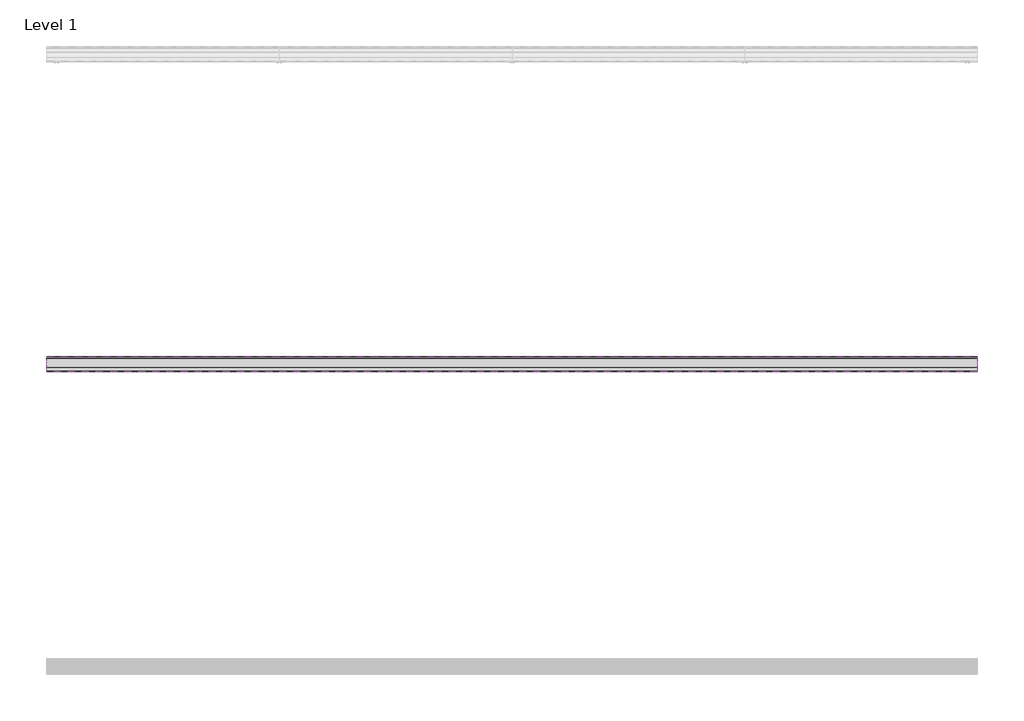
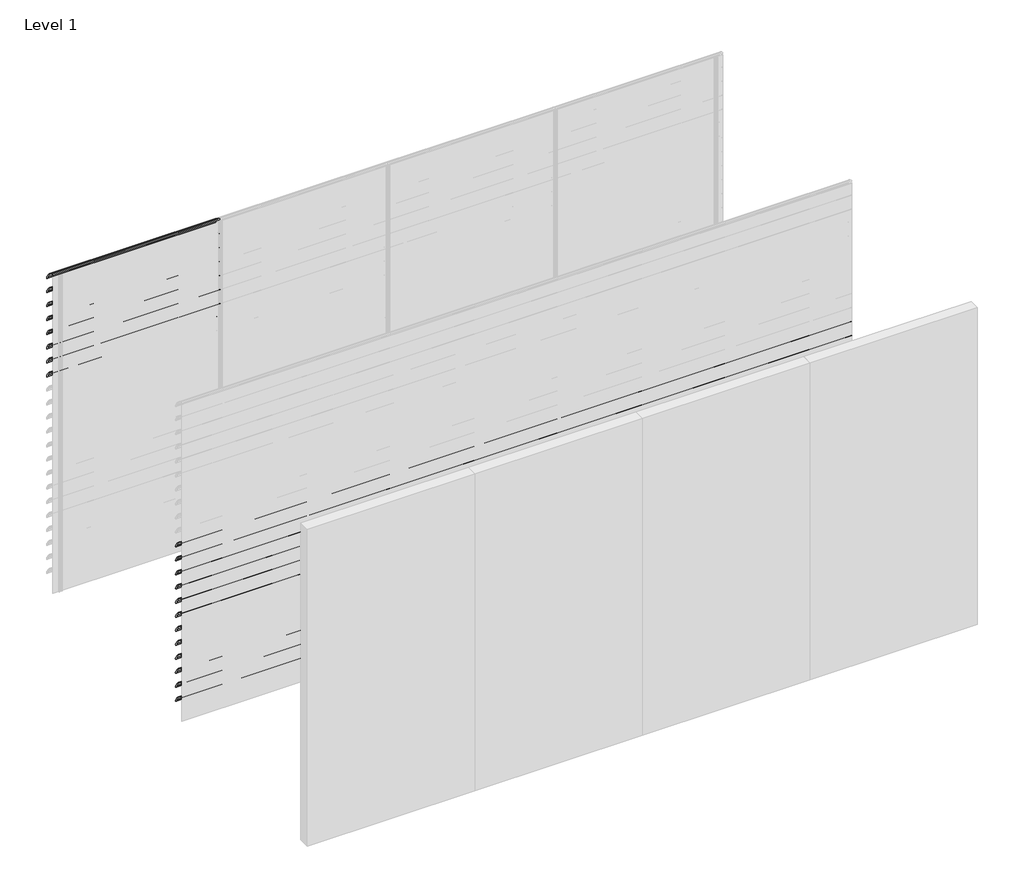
# One storey, part 53 of 57: 20 proxies.
"""IFC4 building model written with IfcOpenShell, lengths in millimetres."""

from ifc_helpers import new_model, si_unit, point, frame, frame_2d, origin, place, context, project, spatial, polyline, circle_curve, trimmed, segment, composite_curve, outline, extrude, element, save

model = new_model("IFC4")

# Units and contexts
model_context = context("Model", 3, world=origin())
ifc_project = project(units=[si_unit("LENGTHUNIT", "METRE", prefix="MILLI")], contexts=[model_context])

# Site, building, storey
site = spatial("IfcSite", under=ifc_project)
building = spatial("IfcBuilding", under=site)
storey = spatial("IfcBuildingStorey", under=building, Name="Level 1", Elevation=0.0)

# Proxies
placement = place(None, origin())
element("IfcBuildingElementProxy", 1, Name="Wall Sweeps", at=placement, inside=storey, context=model_context, shape_type="SweptSolid", body=[
    extrude(outline(composite_curve([segment(trimmed(circle_curve(frame_2d((6.2177474, 3016.4913792)), 4.2177474), [point((10.3014394, 3017.5462976))], [point((6.2177474, 3020.7091266))], False, "CARTESIAN"), True, "CONTINUOUS"), segment(trimmed(circle_curve(frame_2d((-18.7150834, 2918.2536312)), 105.4456002), [point((6.2177474, 3020.7091266))], [point((28.2085702, 3012.6832099))], False, "CARTESIAN"), True, "CONTINUOUS"), segment(trimmed(circle_curve(frame_2d((-61.7199745, 2864.0352476)), 173.7335887), [point((28.2085702, 3012.6832099))], [point((86.9279879, 2953.9637922))], False, "CARTESIAN"), True, "CONTINUOUS"), segment(trimmed(circle_curve(frame_2d((-4.9297178, 2902.1860314)), 105.4456002), [point((86.9279879, 2953.9637922))], [point((96.3750384, 2931.4455765))], False, "CARTESIAN"), True, "CONTINUOUS"), segment(trimmed(circle_curve(frame_2d((92.190263, 2930.3307305)), 4.3307305), [point((96.3750384, 2931.4455765))], [point((90.9230804, 2926.189538))], False, "CARTESIAN"), True, "CONTINUOUS"), segment(polyline([(90.9230804, 2926.189538), (65.2598016, 2950.9722783)]), True, "CONTINUOUS"), segment(trimmed(circle_curve(frame_2d((68.6120426, 2953.2977626)), 4.079877), [point((65.2598016, 2950.9722783))], [point((69.2689403, 2957.3244091))], False, "CARTESIAN"), True, "CONTINUOUS"), segment(trimmed(circle_curve(frame_2d((-14.6665585, 2935.2544323)), 86.7885467), [point((69.2689403, 2957.3244091))], [point((57.6971649, 2983.1683485))], True, "CARTESIAN"), True, "CONTINUOUS"), segment(polyline([(57.6971649, 2983.1683485), (59.2769901, 2985.9046861)]), True, "CONTINUOUS"), segment(trimmed(circle_curve(frame_2d((-61.7199745, 2864.0352476)), 171.7335887), [point((59.2769901, 2985.9046861))], [point((27.2444128, 3010.9289618))], True, "CARTESIAN"), True, "CONTINUOUS"), segment(trimmed(circle_curve(frame_2d((-18.7150834, 2918.2536312)), 103.4456002), [point((27.2444128, 3010.9289618))], [point((10.3014394, 3017.5462976))], True, "CARTESIAN"), True, "CONTINUOUS")], self_intersect=False)), frame((0.0, 0.0, 0.0), z_axis=(1.0, 0.0, 0.0), x_axis=(0.0, 1.0, 0.0)), (0.0, 0.0, 1.0), 1500.0),
])
element("IfcBuildingElementProxy", 2, Name="Wall Sweeps", at=placement, inside=storey, context=model_context, shape_type="SweptSolid", body=[
    extrude(outline(composite_curve([segment(trimmed(circle_curve(frame_2d((6.2177474, 2883.4913792)), 4.2177474), [point((10.3014394, 2884.5462976))], [point((6.2177474, 2887.7091266))], False, "CARTESIAN"), True, "CONTINUOUS"), segment(trimmed(circle_curve(frame_2d((-18.7150834, 2785.2536312)), 105.4456002), [point((6.2177474, 2887.7091266))], [point((28.2085702, 2879.6832099))], False, "CARTESIAN"), True, "CONTINUOUS"), segment(trimmed(circle_curve(frame_2d((-61.7199745, 2731.0352476)), 173.7335887), [point((28.2085702, 2879.6832099))], [point((86.9279879, 2820.9637922))], False, "CARTESIAN"), True, "CONTINUOUS"), segment(trimmed(circle_curve(frame_2d((-4.9297178, 2769.1860314)), 105.4456002), [point((86.9279879, 2820.9637922))], [point((96.3750384, 2798.4455765))], False, "CARTESIAN"), True, "CONTINUOUS"), segment(trimmed(circle_curve(frame_2d((92.190263, 2797.3307305)), 4.3307305), [point((96.3750384, 2798.4455765))], [point((90.9230804, 2793.189538))], False, "CARTESIAN"), True, "CONTINUOUS"), segment(polyline([(90.9230804, 2793.189538), (65.2598016, 2817.9722783)]), True, "CONTINUOUS"), segment(trimmed(circle_curve(frame_2d((68.6120426, 2820.2977626)), 4.079877), [point((65.2598016, 2817.9722783))], [point((69.2689403, 2824.3244091))], False, "CARTESIAN"), True, "CONTINUOUS"), segment(trimmed(circle_curve(frame_2d((-14.6665585, 2802.2544323)), 86.7885467), [point((69.2689403, 2824.3244091))], [point((57.6971649, 2850.1683485))], True, "CARTESIAN"), True, "CONTINUOUS"), segment(polyline([(57.6971649, 2850.1683485), (59.2769901, 2852.9046861)]), True, "CONTINUOUS"), segment(trimmed(circle_curve(frame_2d((-61.7199745, 2731.0352476)), 171.7335887), [point((59.2769901, 2852.9046861))], [point((27.2444128, 2877.9289618))], True, "CARTESIAN"), True, "CONTINUOUS"), segment(trimmed(circle_curve(frame_2d((-18.7150834, 2785.2536312)), 103.4456002), [point((27.2444128, 2877.9289618))], [point((10.3014394, 2884.5462976))], True, "CARTESIAN"), True, "CONTINUOUS")], self_intersect=False)), frame((0.0, 0.0, 0.0), z_axis=(1.0, 0.0, 0.0), x_axis=(0.0, 1.0, 0.0)), (0.0, 0.0, 1.0), 1500.0),
])
element("IfcBuildingElementProxy", 3, Name="Wall Sweeps", at=placement, inside=storey, context=model_context, shape_type="SweptSolid", body=[
    extrude(outline(composite_curve([segment(trimmed(circle_curve(frame_2d((6.2177474, 2750.4913792)), 4.2177474), [point((10.3014394, 2751.5462976))], [point((6.2177474, 2754.7091266))], False, "CARTESIAN"), True, "CONTINUOUS"), segment(trimmed(circle_curve(frame_2d((-18.7150834, 2652.2536312)), 105.4456002), [point((6.2177474, 2754.7091266))], [point((28.2085702, 2746.6832099))], False, "CARTESIAN"), True, "CONTINUOUS"), segment(trimmed(circle_curve(frame_2d((-61.7199745, 2598.0352476)), 173.7335887), [point((28.2085702, 2746.6832099))], [point((86.9279879, 2687.9637922))], False, "CARTESIAN"), True, "CONTINUOUS"), segment(trimmed(circle_curve(frame_2d((-4.9297178, 2636.1860314)), 105.4456002), [point((86.9279879, 2687.9637922))], [point((96.3750384, 2665.4455765))], False, "CARTESIAN"), True, "CONTINUOUS"), segment(trimmed(circle_curve(frame_2d((92.190263, 2664.3307305)), 4.3307305), [point((96.3750384, 2665.4455765))], [point((90.9230804, 2660.189538))], False, "CARTESIAN"), True, "CONTINUOUS"), segment(polyline([(90.9230804, 2660.189538), (65.2598016, 2684.9722783)]), True, "CONTINUOUS"), segment(trimmed(circle_curve(frame_2d((68.6120426, 2687.2977626)), 4.079877), [point((65.2598016, 2684.9722783))], [point((69.2689403, 2691.3244091))], False, "CARTESIAN"), True, "CONTINUOUS"), segment(trimmed(circle_curve(frame_2d((-14.6665585, 2669.2544323)), 86.7885467), [point((69.2689403, 2691.3244091))], [point((57.6971649, 2717.1683485))], True, "CARTESIAN"), True, "CONTINUOUS"), segment(polyline([(57.6971649, 2717.1683485), (59.2769901, 2719.9046861)]), True, "CONTINUOUS"), segment(trimmed(circle_curve(frame_2d((-61.7199745, 2598.0352476)), 171.7335887), [point((59.2769901, 2719.9046861))], [point((27.2444128, 2744.9289618))], True, "CARTESIAN"), True, "CONTINUOUS"), segment(trimmed(circle_curve(frame_2d((-18.7150834, 2652.2536312)), 103.4456002), [point((27.2444128, 2744.9289618))], [point((10.3014394, 2751.5462976))], True, "CARTESIAN"), True, "CONTINUOUS")], self_intersect=False)), frame((0.0, 0.0, 0.0), z_axis=(1.0, 0.0, 0.0), x_axis=(0.0, 1.0, 0.0)), (0.0, 0.0, 1.0), 1500.0),
])
element("IfcBuildingElementProxy", 4, Name="Wall Sweeps", at=placement, inside=storey, context=model_context, shape_type="SweptSolid", body=[
    extrude(outline(composite_curve([segment(trimmed(circle_curve(frame_2d((6.2177474, 2617.4913792)), 4.2177474), [point((10.3014394, 2618.5462976))], [point((6.2177474, 2621.7091266))], False, "CARTESIAN"), True, "CONTINUOUS"), segment(trimmed(circle_curve(frame_2d((-18.7150834, 2519.2536312)), 105.4456002), [point((6.2177474, 2621.7091266))], [point((28.2085702, 2613.6832099))], False, "CARTESIAN"), True, "CONTINUOUS"), segment(trimmed(circle_curve(frame_2d((-61.7199745, 2465.0352476)), 173.7335887), [point((28.2085702, 2613.6832099))], [point((86.9279879, 2554.9637922))], False, "CARTESIAN"), True, "CONTINUOUS"), segment(trimmed(circle_curve(frame_2d((-4.9297178, 2503.1860314)), 105.4456002), [point((86.9279879, 2554.9637922))], [point((96.3750384, 2532.4455765))], False, "CARTESIAN"), True, "CONTINUOUS"), segment(trimmed(circle_curve(frame_2d((92.190263, 2531.3307305)), 4.3307305), [point((96.3750384, 2532.4455765))], [point((90.9230804, 2527.189538))], False, "CARTESIAN"), True, "CONTINUOUS"), segment(polyline([(90.9230804, 2527.189538), (65.2598016, 2551.9722783)]), True, "CONTINUOUS"), segment(trimmed(circle_curve(frame_2d((68.6120426, 2554.2977626)), 4.079877), [point((65.2598016, 2551.9722783))], [point((69.2689403, 2558.3244091))], False, "CARTESIAN"), True, "CONTINUOUS"), segment(trimmed(circle_curve(frame_2d((-14.6665585, 2536.2544323)), 86.7885467), [point((69.2689403, 2558.3244091))], [point((57.6971649, 2584.1683485))], True, "CARTESIAN"), True, "CONTINUOUS"), segment(polyline([(57.6971649, 2584.1683485), (59.2769901, 2586.9046861)]), True, "CONTINUOUS"), segment(trimmed(circle_curve(frame_2d((-61.7199745, 2465.0352476)), 171.7335887), [point((59.2769901, 2586.9046861))], [point((27.2444128, 2611.9289618))], True, "CARTESIAN"), True, "CONTINUOUS"), segment(trimmed(circle_curve(frame_2d((-18.7150834, 2519.2536312)), 103.4456002), [point((27.2444128, 2611.9289618))], [point((10.3014394, 2618.5462976))], True, "CARTESIAN"), True, "CONTINUOUS")], self_intersect=False)), frame((0.0, 0.0, 0.0), z_axis=(1.0, 0.0, 0.0), x_axis=(0.0, 1.0, 0.0)), (0.0, 0.0, 1.0), 1500.0),
])
element("IfcBuildingElementProxy", 5, Name="Wall Sweeps", at=placement, inside=storey, context=model_context, shape_type="SweptSolid", body=[
    extrude(outline(composite_curve([segment(trimmed(circle_curve(frame_2d((6.2177474, 2484.4913792)), 4.2177474), [point((10.3014394, 2485.5462976))], [point((6.2177474, 2488.7091266))], False, "CARTESIAN"), True, "CONTINUOUS"), segment(trimmed(circle_curve(frame_2d((-18.7150834, 2386.2536312)), 105.4456002), [point((6.2177474, 2488.7091266))], [point((28.2085702, 2480.6832099))], False, "CARTESIAN"), True, "CONTINUOUS"), segment(trimmed(circle_curve(frame_2d((-61.7199745, 2332.0352476)), 173.7335887), [point((28.2085702, 2480.6832099))], [point((86.9279879, 2421.9637922))], False, "CARTESIAN"), True, "CONTINUOUS"), segment(trimmed(circle_curve(frame_2d((-4.9297178, 2370.1860314)), 105.4456002), [point((86.9279879, 2421.9637922))], [point((96.3750384, 2399.4455765))], False, "CARTESIAN"), True, "CONTINUOUS"), segment(trimmed(circle_curve(frame_2d((92.190263, 2398.3307305)), 4.3307305), [point((96.3750384, 2399.4455765))], [point((90.9230804, 2394.189538))], False, "CARTESIAN"), True, "CONTINUOUS"), segment(polyline([(90.9230804, 2394.189538), (65.2598016, 2418.9722783)]), True, "CONTINUOUS"), segment(trimmed(circle_curve(frame_2d((68.6120426, 2421.2977626)), 4.079877), [point((65.2598016, 2418.9722783))], [point((69.2689403, 2425.3244091))], False, "CARTESIAN"), True, "CONTINUOUS"), segment(trimmed(circle_curve(frame_2d((-14.6665585, 2403.2544323)), 86.7885467), [point((69.2689403, 2425.3244091))], [point((57.6971649, 2451.1683485))], True, "CARTESIAN"), True, "CONTINUOUS"), segment(polyline([(57.6971649, 2451.1683485), (59.2769901, 2453.9046861)]), True, "CONTINUOUS"), segment(trimmed(circle_curve(frame_2d((-61.7199745, 2332.0352476)), 171.7335887), [point((59.2769901, 2453.9046861))], [point((27.2444128, 2478.9289618))], True, "CARTESIAN"), True, "CONTINUOUS"), segment(trimmed(circle_curve(frame_2d((-18.7150834, 2386.2536312)), 103.4456002), [point((27.2444128, 2478.9289618))], [point((10.3014394, 2485.5462976))], True, "CARTESIAN"), True, "CONTINUOUS")], self_intersect=False)), frame((0.0, 0.0, 0.0), z_axis=(1.0, 0.0, 0.0), x_axis=(0.0, 1.0, 0.0)), (0.0, 0.0, 1.0), 1500.0),
])
element("IfcBuildingElementProxy", 6, Name="Wall Sweeps", at=placement, inside=storey, context=model_context, shape_type="SweptSolid", body=[
    extrude(outline(composite_curve([segment(trimmed(circle_curve(frame_2d((6.2177474, 2351.4913792)), 4.2177474), [point((10.3014394, 2352.5462976))], [point((6.2177474, 2355.7091266))], False, "CARTESIAN"), True, "CONTINUOUS"), segment(trimmed(circle_curve(frame_2d((-18.7150834, 2253.2536312)), 105.4456002), [point((6.2177474, 2355.7091266))], [point((28.2085702, 2347.6832099))], False, "CARTESIAN"), True, "CONTINUOUS"), segment(trimmed(circle_curve(frame_2d((-61.7199745, 2199.0352476)), 173.7335887), [point((28.2085702, 2347.6832099))], [point((86.9279879, 2288.9637922))], False, "CARTESIAN"), True, "CONTINUOUS"), segment(trimmed(circle_curve(frame_2d((-4.9297178, 2237.1860314)), 105.4456002), [point((86.9279879, 2288.9637922))], [point((96.3750384, 2266.4455765))], False, "CARTESIAN"), True, "CONTINUOUS"), segment(trimmed(circle_curve(frame_2d((92.190263, 2265.3307305)), 4.3307305), [point((96.3750384, 2266.4455765))], [point((90.9230804, 2261.189538))], False, "CARTESIAN"), True, "CONTINUOUS"), segment(polyline([(90.9230804, 2261.189538), (65.2598016, 2285.9722783)]), True, "CONTINUOUS"), segment(trimmed(circle_curve(frame_2d((68.6120426, 2288.2977626)), 4.079877), [point((65.2598016, 2285.9722783))], [point((69.2689403, 2292.3244091))], False, "CARTESIAN"), True, "CONTINUOUS"), segment(trimmed(circle_curve(frame_2d((-14.6665585, 2270.2544323)), 86.7885467), [point((69.2689403, 2292.3244091))], [point((57.6971649, 2318.1683485))], True, "CARTESIAN"), True, "CONTINUOUS"), segment(polyline([(57.6971649, 2318.1683485), (59.2769901, 2320.9046861)]), True, "CONTINUOUS"), segment(trimmed(circle_curve(frame_2d((-61.7199745, 2199.0352476)), 171.7335887), [point((59.2769901, 2320.9046861))], [point((27.2444128, 2345.9289618))], True, "CARTESIAN"), True, "CONTINUOUS"), segment(trimmed(circle_curve(frame_2d((-18.7150834, 2253.2536312)), 103.4456002), [point((27.2444128, 2345.9289618))], [point((10.3014394, 2352.5462976))], True, "CARTESIAN"), True, "CONTINUOUS")], self_intersect=False)), frame((0.0, 0.0, 0.0), z_axis=(1.0, 0.0, 0.0), x_axis=(0.0, 1.0, 0.0)), (0.0, 0.0, 1.0), 1500.0),
])
element("IfcBuildingElementProxy", 7, Name="Wall Sweeps", at=placement, inside=storey, context=model_context, shape_type="SweptSolid", body=[
    extrude(outline(composite_curve([segment(trimmed(circle_curve(frame_2d((6.2177474, 2218.4913792)), 4.2177474), [point((10.3014394, 2219.5462976))], [point((6.2177474, 2222.7091266))], False, "CARTESIAN"), True, "CONTINUOUS"), segment(trimmed(circle_curve(frame_2d((-18.7150834, 2120.2536312)), 105.4456002), [point((6.2177474, 2222.7091266))], [point((28.2085702, 2214.6832099))], False, "CARTESIAN"), True, "CONTINUOUS"), segment(trimmed(circle_curve(frame_2d((-61.7199745, 2066.0352476)), 173.7335887), [point((28.2085702, 2214.6832099))], [point((86.9279879, 2155.9637922))], False, "CARTESIAN"), True, "CONTINUOUS"), segment(trimmed(circle_curve(frame_2d((-4.9297178, 2104.1860314)), 105.4456002), [point((86.9279879, 2155.9637922))], [point((96.3750384, 2133.4455765))], False, "CARTESIAN"), True, "CONTINUOUS"), segment(trimmed(circle_curve(frame_2d((92.190263, 2132.3307305)), 4.3307305), [point((96.3750384, 2133.4455765))], [point((90.9230804, 2128.189538))], False, "CARTESIAN"), True, "CONTINUOUS"), segment(polyline([(90.9230804, 2128.189538), (65.2598016, 2152.9722783)]), True, "CONTINUOUS"), segment(trimmed(circle_curve(frame_2d((68.6120426, 2155.2977626)), 4.079877), [point((65.2598016, 2152.9722783))], [point((69.2689403, 2159.3244091))], False, "CARTESIAN"), True, "CONTINUOUS"), segment(trimmed(circle_curve(frame_2d((-14.6665585, 2137.2544323)), 86.7885467), [point((69.2689403, 2159.3244091))], [point((57.6971649, 2185.1683485))], True, "CARTESIAN"), True, "CONTINUOUS"), segment(polyline([(57.6971649, 2185.1683485), (59.2769901, 2187.9046861)]), True, "CONTINUOUS"), segment(trimmed(circle_curve(frame_2d((-61.7199745, 2066.0352476)), 171.7335887), [point((59.2769901, 2187.9046861))], [point((27.2444128, 2212.9289618))], True, "CARTESIAN"), True, "CONTINUOUS"), segment(trimmed(circle_curve(frame_2d((-18.7150834, 2120.2536312)), 103.4456002), [point((27.2444128, 2212.9289618))], [point((10.3014394, 2219.5462976))], True, "CARTESIAN"), True, "CONTINUOUS")], self_intersect=False)), frame((0.0, 0.0, 0.0), z_axis=(1.0, 0.0, 0.0), x_axis=(0.0, 1.0, 0.0)), (0.0, 0.0, 1.0), 1500.0),
])
element("IfcBuildingElementProxy", 8, Name="Wall Sweeps", at=placement, inside=storey, context=model_context, shape_type="SweptSolid", body=[
    extrude(outline(composite_curve([segment(trimmed(circle_curve(frame_2d((6.2177474, 2085.4913792)), 4.2177474), [point((10.3014394, 2086.5462976))], [point((6.2177474, 2089.7091266))], False, "CARTESIAN"), True, "CONTINUOUS"), segment(trimmed(circle_curve(frame_2d((-18.7150834, 1987.2536312)), 105.4456002), [point((6.2177474, 2089.7091266))], [point((28.2085702, 2081.6832099))], False, "CARTESIAN"), True, "CONTINUOUS"), segment(trimmed(circle_curve(frame_2d((-61.7199745, 1933.0352476)), 173.7335887), [point((28.2085702, 2081.6832099))], [point((86.9279879, 2022.9637922))], False, "CARTESIAN"), True, "CONTINUOUS"), segment(trimmed(circle_curve(frame_2d((-4.9297178, 1971.1860314)), 105.4456002), [point((86.9279879, 2022.9637922))], [point((96.3750384, 2000.4455765))], False, "CARTESIAN"), True, "CONTINUOUS"), segment(trimmed(circle_curve(frame_2d((92.190263, 1999.3307305)), 4.3307305), [point((96.3750384, 2000.4455765))], [point((90.9230804, 1995.189538))], False, "CARTESIAN"), True, "CONTINUOUS"), segment(polyline([(90.9230804, 1995.189538), (65.2598016, 2019.9722783)]), True, "CONTINUOUS"), segment(trimmed(circle_curve(frame_2d((68.6120426, 2022.2977626)), 4.079877), [point((65.2598016, 2019.9722783))], [point((69.2689403, 2026.3244091))], False, "CARTESIAN"), True, "CONTINUOUS"), segment(trimmed(circle_curve(frame_2d((-14.6665585, 2004.2544323)), 86.7885467), [point((69.2689403, 2026.3244091))], [point((57.6971649, 2052.1683485))], True, "CARTESIAN"), True, "CONTINUOUS"), segment(polyline([(57.6971649, 2052.1683485), (59.2769901, 2054.9046861)]), True, "CONTINUOUS"), segment(trimmed(circle_curve(frame_2d((-61.7199745, 1933.0352476)), 171.7335887), [point((59.2769901, 2054.9046861))], [point((27.2444128, 2079.9289618))], True, "CARTESIAN"), True, "CONTINUOUS"), segment(trimmed(circle_curve(frame_2d((-18.7150834, 1987.2536312)), 103.4456002), [point((27.2444128, 2079.9289618))], [point((10.3014394, 2086.5462976))], True, "CARTESIAN"), True, "CONTINUOUS")], self_intersect=False)), frame((0.0, 0.0, 0.0), z_axis=(1.0, 0.0, 0.0), x_axis=(0.0, 1.0, 0.0)), (0.0, 0.0, 1.0), 1500.0),
])
element("IfcBuildingElementProxy", 9, Name="Wall Sweeps", at=placement, inside=storey, context=model_context, shape_type="SweptSolid", body=[
    extrude(outline(composite_curve([segment(trimmed(circle_curve(frame_2d((-1993.7822526, 1686.4913792)), 4.2177474), [point((-1989.6985606, 1687.5462976))], [point((-1993.7822526, 1690.7091266))], False, "CARTESIAN"), True, "CONTINUOUS"), segment(trimmed(circle_curve(frame_2d((-2018.7150834, 1588.2536312)), 105.4456002), [point((-1993.7822526, 1690.7091266))], [point((-1971.7914298, 1682.6832099))], False, "CARTESIAN"), True, "CONTINUOUS"), segment(trimmed(circle_curve(frame_2d((-2061.7199745, 1534.0352476)), 173.7335887), [point((-1971.7914298, 1682.6832099))], [point((-1913.0720121, 1623.9637922))], False, "CARTESIAN"), True, "CONTINUOUS"), segment(trimmed(circle_curve(frame_2d((-2004.9297178, 1572.1860314)), 105.4456002), [point((-1913.0720121, 1623.9637922))], [point((-1903.6249616, 1601.4455765))], False, "CARTESIAN"), True, "CONTINUOUS"), segment(trimmed(circle_curve(frame_2d((-1907.809737, 1600.3307305)), 4.3307305), [point((-1903.6249616, 1601.4455765))], [point((-1909.0769196, 1596.189538))], False, "CARTESIAN"), True, "CONTINUOUS"), segment(polyline([(-1909.0769196, 1596.189538), (-1934.7401984, 1620.9722783)]), True, "CONTINUOUS"), segment(trimmed(circle_curve(frame_2d((-1931.3879574, 1623.2977626)), 4.079877), [point((-1934.7401984, 1620.9722783))], [point((-1930.7310597, 1627.3244091))], False, "CARTESIAN"), True, "CONTINUOUS"), segment(trimmed(circle_curve(frame_2d((-2014.6665585, 1605.2544323)), 86.7885467), [point((-1930.7310597, 1627.3244091))], [point((-1942.3028351, 1653.1683485))], True, "CARTESIAN"), True, "CONTINUOUS"), segment(polyline([(-1942.3028351, 1653.1683485), (-1940.7230099, 1655.9046861)]), True, "CONTINUOUS"), segment(trimmed(circle_curve(frame_2d((-2061.7199745, 1534.0352476)), 171.7335887), [point((-1940.7230099, 1655.9046861))], [point((-1972.7555872, 1680.9289618))], True, "CARTESIAN"), True, "CONTINUOUS"), segment(trimmed(circle_curve(frame_2d((-2018.7150834, 1588.2536312)), 103.4456002), [point((-1972.7555872, 1680.9289618))], [point((-1989.6985606, 1687.5462976))], True, "CARTESIAN"), True, "CONTINUOUS")], self_intersect=False)), frame((0.0, 0.0, 0.0), z_axis=(1.0, 0.0, 0.0), x_axis=(0.0, 1.0, 0.0)), (0.0, 0.0, 1.0), 6000.0),
])
element("IfcBuildingElementProxy", 10, Name="Wall Sweeps", at=placement, inside=storey, context=model_context, shape_type="SweptSolid", body=[
    extrude(outline(composite_curve([segment(trimmed(circle_curve(frame_2d((-1993.7822526, 1553.4913792)), 4.2177474), [point((-1989.6985606, 1554.5462976))], [point((-1993.7822526, 1557.7091266))], False, "CARTESIAN"), True, "CONTINUOUS"), segment(trimmed(circle_curve(frame_2d((-2018.7150834, 1455.2536312)), 105.4456002), [point((-1993.7822526, 1557.7091266))], [point((-1971.7914298, 1549.6832099))], False, "CARTESIAN"), True, "CONTINUOUS"), segment(trimmed(circle_curve(frame_2d((-2061.7199745, 1401.0352476)), 173.7335887), [point((-1971.7914298, 1549.6832099))], [point((-1913.0720121, 1490.9637922))], False, "CARTESIAN"), True, "CONTINUOUS"), segment(trimmed(circle_curve(frame_2d((-2004.9297178, 1439.1860314)), 105.4456002), [point((-1913.0720121, 1490.9637922))], [point((-1903.6249616, 1468.4455765))], False, "CARTESIAN"), True, "CONTINUOUS"), segment(trimmed(circle_curve(frame_2d((-1907.809737, 1467.3307305)), 4.3307305), [point((-1903.6249616, 1468.4455765))], [point((-1909.0769196, 1463.189538))], False, "CARTESIAN"), True, "CONTINUOUS"), segment(polyline([(-1909.0769196, 1463.189538), (-1934.7401984, 1487.9722783)]), True, "CONTINUOUS"), segment(trimmed(circle_curve(frame_2d((-1931.3879574, 1490.2977626)), 4.079877), [point((-1934.7401984, 1487.9722783))], [point((-1930.7310597, 1494.3244091))], False, "CARTESIAN"), True, "CONTINUOUS"), segment(trimmed(circle_curve(frame_2d((-2014.6665585, 1472.2544323)), 86.7885467), [point((-1930.7310597, 1494.3244091))], [point((-1942.3028351, 1520.1683485))], True, "CARTESIAN"), True, "CONTINUOUS"), segment(polyline([(-1942.3028351, 1520.1683485), (-1940.7230099, 1522.9046861)]), True, "CONTINUOUS"), segment(trimmed(circle_curve(frame_2d((-2061.7199745, 1401.0352476)), 171.7335887), [point((-1940.7230099, 1522.9046861))], [point((-1972.7555872, 1547.9289618))], True, "CARTESIAN"), True, "CONTINUOUS"), segment(trimmed(circle_curve(frame_2d((-2018.7150834, 1455.2536312)), 103.4456002), [point((-1972.7555872, 1547.9289618))], [point((-1989.6985606, 1554.5462976))], True, "CARTESIAN"), True, "CONTINUOUS")], self_intersect=False)), frame((0.0, 0.0, 0.0), z_axis=(1.0, 0.0, 0.0), x_axis=(0.0, 1.0, 0.0)), (0.0, 0.0, 1.0), 6000.0),
])
element("IfcBuildingElementProxy", 11, Name="Wall Sweeps", at=placement, inside=storey, context=model_context, shape_type="SweptSolid", body=[
    extrude(outline(composite_curve([segment(trimmed(circle_curve(frame_2d((-1993.7822526, 1420.4913792)), 4.2177474), [point((-1989.6985606, 1421.5462976))], [point((-1993.7822526, 1424.7091266))], False, "CARTESIAN"), True, "CONTINUOUS"), segment(trimmed(circle_curve(frame_2d((-2018.7150834, 1322.2536312)), 105.4456002), [point((-1993.7822526, 1424.7091266))], [point((-1971.7914298, 1416.6832099))], False, "CARTESIAN"), True, "CONTINUOUS"), segment(trimmed(circle_curve(frame_2d((-2061.7199745, 1268.0352476)), 173.7335887), [point((-1971.7914298, 1416.6832099))], [point((-1913.0720121, 1357.9637922))], False, "CARTESIAN"), True, "CONTINUOUS"), segment(trimmed(circle_curve(frame_2d((-2004.9297178, 1306.1860314)), 105.4456002), [point((-1913.0720121, 1357.9637922))], [point((-1903.6249616, 1335.4455765))], False, "CARTESIAN"), True, "CONTINUOUS"), segment(trimmed(circle_curve(frame_2d((-1907.809737, 1334.3307305)), 4.3307305), [point((-1903.6249616, 1335.4455765))], [point((-1909.0769196, 1330.189538))], False, "CARTESIAN"), True, "CONTINUOUS"), segment(polyline([(-1909.0769196, 1330.189538), (-1934.7401984, 1354.9722783)]), True, "CONTINUOUS"), segment(trimmed(circle_curve(frame_2d((-1931.3879574, 1357.2977626)), 4.079877), [point((-1934.7401984, 1354.9722783))], [point((-1930.7310597, 1361.3244091))], False, "CARTESIAN"), True, "CONTINUOUS"), segment(trimmed(circle_curve(frame_2d((-2014.6665585, 1339.2544323)), 86.7885467), [point((-1930.7310597, 1361.3244091))], [point((-1942.3028351, 1387.1683485))], True, "CARTESIAN"), True, "CONTINUOUS"), segment(polyline([(-1942.3028351, 1387.1683485), (-1940.7230099, 1389.9046861)]), True, "CONTINUOUS"), segment(trimmed(circle_curve(frame_2d((-2061.7199745, 1268.0352476)), 171.7335887), [point((-1940.7230099, 1389.9046861))], [point((-1972.7555872, 1414.9289618))], True, "CARTESIAN"), True, "CONTINUOUS"), segment(trimmed(circle_curve(frame_2d((-2018.7150834, 1322.2536312)), 103.4456002), [point((-1972.7555872, 1414.9289618))], [point((-1989.6985606, 1421.5462976))], True, "CARTESIAN"), True, "CONTINUOUS")], self_intersect=False)), frame((0.0, 0.0, 0.0), z_axis=(1.0, 0.0, 0.0), x_axis=(0.0, 1.0, 0.0)), (0.0, 0.0, 1.0), 6000.0),
])
element("IfcBuildingElementProxy", 12, Name="Wall Sweeps", at=placement, inside=storey, context=model_context, shape_type="SweptSolid", body=[
    extrude(outline(composite_curve([segment(trimmed(circle_curve(frame_2d((-1993.7822526, 1287.4913792)), 4.2177474), [point((-1989.6985606, 1288.5462976))], [point((-1993.7822526, 1291.7091266))], False, "CARTESIAN"), True, "CONTINUOUS"), segment(trimmed(circle_curve(frame_2d((-2018.7150834, 1189.2536312)), 105.4456002), [point((-1993.7822526, 1291.7091266))], [point((-1971.7914298, 1283.6832099))], False, "CARTESIAN"), True, "CONTINUOUS"), segment(trimmed(circle_curve(frame_2d((-2061.7199745, 1135.0352476)), 173.7335887), [point((-1971.7914298, 1283.6832099))], [point((-1913.0720121, 1224.9637922))], False, "CARTESIAN"), True, "CONTINUOUS"), segment(trimmed(circle_curve(frame_2d((-2004.9297178, 1173.1860314)), 105.4456002), [point((-1913.0720121, 1224.9637922))], [point((-1903.6249616, 1202.4455765))], False, "CARTESIAN"), True, "CONTINUOUS"), segment(trimmed(circle_curve(frame_2d((-1907.809737, 1201.3307305)), 4.3307305), [point((-1903.6249616, 1202.4455765))], [point((-1909.0769196, 1197.189538))], False, "CARTESIAN"), True, "CONTINUOUS"), segment(polyline([(-1909.0769196, 1197.189538), (-1934.7401984, 1221.9722783)]), True, "CONTINUOUS"), segment(trimmed(circle_curve(frame_2d((-1931.3879574, 1224.2977626)), 4.079877), [point((-1934.7401984, 1221.9722783))], [point((-1930.7310597, 1228.3244091))], False, "CARTESIAN"), True, "CONTINUOUS"), segment(trimmed(circle_curve(frame_2d((-2014.6665585, 1206.2544323)), 86.7885467), [point((-1930.7310597, 1228.3244091))], [point((-1942.3028351, 1254.1683485))], True, "CARTESIAN"), True, "CONTINUOUS"), segment(polyline([(-1942.3028351, 1254.1683485), (-1940.7230099, 1256.9046861)]), True, "CONTINUOUS"), segment(trimmed(circle_curve(frame_2d((-2061.7199745, 1135.0352476)), 171.7335887), [point((-1940.7230099, 1256.9046861))], [point((-1972.7555872, 1281.9289618))], True, "CARTESIAN"), True, "CONTINUOUS"), segment(trimmed(circle_curve(frame_2d((-2018.7150834, 1189.2536312)), 103.4456002), [point((-1972.7555872, 1281.9289618))], [point((-1989.6985606, 1288.5462976))], True, "CARTESIAN"), True, "CONTINUOUS")], self_intersect=False)), frame((0.0, 0.0, 0.0), z_axis=(1.0, 0.0, 0.0), x_axis=(0.0, 1.0, 0.0)), (0.0, 0.0, 1.0), 6000.0),
])
element("IfcBuildingElementProxy", 13, Name="Wall Sweeps", at=placement, inside=storey, context=model_context, shape_type="SweptSolid", body=[
    extrude(outline(composite_curve([segment(trimmed(circle_curve(frame_2d((-1993.7822526, 1154.4913792)), 4.2177474), [point((-1989.6985606, 1155.5462976))], [point((-1993.7822526, 1158.7091266))], False, "CARTESIAN"), True, "CONTINUOUS"), segment(trimmed(circle_curve(frame_2d((-2018.7150834, 1056.2536312)), 105.4456002), [point((-1993.7822526, 1158.7091266))], [point((-1971.7914298, 1150.6832099))], False, "CARTESIAN"), True, "CONTINUOUS"), segment(trimmed(circle_curve(frame_2d((-2061.7199745, 1002.0352476)), 173.7335887), [point((-1971.7914298, 1150.6832099))], [point((-1913.0720121, 1091.9637922))], False, "CARTESIAN"), True, "CONTINUOUS"), segment(trimmed(circle_curve(frame_2d((-2004.9297178, 1040.1860314)), 105.4456002), [point((-1913.0720121, 1091.9637922))], [point((-1903.6249616, 1069.4455765))], False, "CARTESIAN"), True, "CONTINUOUS"), segment(trimmed(circle_curve(frame_2d((-1907.809737, 1068.3307305)), 4.3307305), [point((-1903.6249616, 1069.4455765))], [point((-1909.0769196, 1064.189538))], False, "CARTESIAN"), True, "CONTINUOUS"), segment(polyline([(-1909.0769196, 1064.189538), (-1934.7401984, 1088.9722783)]), True, "CONTINUOUS"), segment(trimmed(circle_curve(frame_2d((-1931.3879574, 1091.2977626)), 4.079877), [point((-1934.7401984, 1088.9722783))], [point((-1930.7310597, 1095.3244091))], False, "CARTESIAN"), True, "CONTINUOUS"), segment(trimmed(circle_curve(frame_2d((-2014.6665585, 1073.2544323)), 86.7885467), [point((-1930.7310597, 1095.3244091))], [point((-1942.3028351, 1121.1683485))], True, "CARTESIAN"), True, "CONTINUOUS"), segment(polyline([(-1942.3028351, 1121.1683485), (-1940.7230099, 1123.9046861)]), True, "CONTINUOUS"), segment(trimmed(circle_curve(frame_2d((-2061.7199745, 1002.0352476)), 171.7335887), [point((-1940.7230099, 1123.9046861))], [point((-1972.7555872, 1148.9289618))], True, "CARTESIAN"), True, "CONTINUOUS"), segment(trimmed(circle_curve(frame_2d((-2018.7150834, 1056.2536312)), 103.4456002), [point((-1972.7555872, 1148.9289618))], [point((-1989.6985606, 1155.5462976))], True, "CARTESIAN"), True, "CONTINUOUS")], self_intersect=False)), frame((0.0, 0.0, 0.0), z_axis=(1.0, 0.0, 0.0), x_axis=(0.0, 1.0, 0.0)), (0.0, 0.0, 1.0), 6000.0),
])
element("IfcBuildingElementProxy", 14, Name="Wall Sweeps", at=placement, inside=storey, context=model_context, shape_type="SweptSolid", body=[
    extrude(outline(composite_curve([segment(trimmed(circle_curve(frame_2d((-1993.7822526, 1021.4913792)), 4.2177474), [point((-1989.6985606, 1022.5462976))], [point((-1993.7822526, 1025.7091266))], False, "CARTESIAN"), True, "CONTINUOUS"), segment(trimmed(circle_curve(frame_2d((-2018.7150834, 923.2536312)), 105.4456002), [point((-1993.7822526, 1025.7091266))], [point((-1971.7914298, 1017.6832099))], False, "CARTESIAN"), True, "CONTINUOUS"), segment(trimmed(circle_curve(frame_2d((-2061.7199745, 869.0352476)), 173.7335887), [point((-1971.7914298, 1017.6832099))], [point((-1913.0720121, 958.9637922))], False, "CARTESIAN"), True, "CONTINUOUS"), segment(trimmed(circle_curve(frame_2d((-2004.9297178, 907.1860314)), 105.4456002), [point((-1913.0720121, 958.9637922))], [point((-1903.6249616, 936.4455765))], False, "CARTESIAN"), True, "CONTINUOUS"), segment(trimmed(circle_curve(frame_2d((-1907.809737, 935.3307305)), 4.3307305), [point((-1903.6249616, 936.4455765))], [point((-1909.0769196, 931.189538))], False, "CARTESIAN"), True, "CONTINUOUS"), segment(polyline([(-1909.0769196, 931.189538), (-1934.7401984, 955.9722783)]), True, "CONTINUOUS"), segment(trimmed(circle_curve(frame_2d((-1931.3879574, 958.2977626)), 4.079877), [point((-1934.7401984, 955.9722783))], [point((-1930.7310597, 962.3244091))], False, "CARTESIAN"), True, "CONTINUOUS"), segment(trimmed(circle_curve(frame_2d((-2014.6665585, 940.2544323)), 86.7885467), [point((-1930.7310597, 962.3244091))], [point((-1942.3028351, 988.1683485))], True, "CARTESIAN"), True, "CONTINUOUS"), segment(polyline([(-1942.3028351, 988.1683485), (-1940.7230099, 990.9046861)]), True, "CONTINUOUS"), segment(trimmed(circle_curve(frame_2d((-2061.7199745, 869.0352476)), 171.7335887), [point((-1940.7230099, 990.9046861))], [point((-1972.7555872, 1015.9289618))], True, "CARTESIAN"), True, "CONTINUOUS"), segment(trimmed(circle_curve(frame_2d((-2018.7150834, 923.2536312)), 103.4456002), [point((-1972.7555872, 1015.9289618))], [point((-1989.6985606, 1022.5462976))], True, "CARTESIAN"), True, "CONTINUOUS")], self_intersect=False)), frame((0.0, 0.0, 0.0), z_axis=(1.0, 0.0, 0.0), x_axis=(0.0, 1.0, 0.0)), (0.0, 0.0, 1.0), 6000.0),
])
element("IfcBuildingElementProxy", 15, Name="Wall Sweeps", at=placement, inside=storey, context=model_context, shape_type="SweptSolid", body=[
    extrude(outline(composite_curve([segment(trimmed(circle_curve(frame_2d((-1993.7822526, 888.4913792)), 4.2177474), [point((-1989.6985606, 889.5462976))], [point((-1993.7822526, 892.7091266))], False, "CARTESIAN"), True, "CONTINUOUS"), segment(trimmed(circle_curve(frame_2d((-2018.7150834, 790.2536312)), 105.4456002), [point((-1993.7822526, 892.7091266))], [point((-1971.7914298, 884.6832099))], False, "CARTESIAN"), True, "CONTINUOUS"), segment(trimmed(circle_curve(frame_2d((-2061.7199745, 736.0352476)), 173.7335887), [point((-1971.7914298, 884.6832099))], [point((-1913.0720121, 825.9637922))], False, "CARTESIAN"), True, "CONTINUOUS"), segment(trimmed(circle_curve(frame_2d((-2004.9297178, 774.1860314)), 105.4456002), [point((-1913.0720121, 825.9637922))], [point((-1903.6249616, 803.4455765))], False, "CARTESIAN"), True, "CONTINUOUS"), segment(trimmed(circle_curve(frame_2d((-1907.809737, 802.3307305)), 4.3307305), [point((-1903.6249616, 803.4455765))], [point((-1909.0769196, 798.189538))], False, "CARTESIAN"), True, "CONTINUOUS"), segment(polyline([(-1909.0769196, 798.189538), (-1934.7401984, 822.9722783)]), True, "CONTINUOUS"), segment(trimmed(circle_curve(frame_2d((-1931.3879574, 825.2977626)), 4.079877), [point((-1934.7401984, 822.9722783))], [point((-1930.7310597, 829.3244091))], False, "CARTESIAN"), True, "CONTINUOUS"), segment(trimmed(circle_curve(frame_2d((-2014.6665585, 807.2544323)), 86.7885467), [point((-1930.7310597, 829.3244091))], [point((-1942.3028351, 855.1683485))], True, "CARTESIAN"), True, "CONTINUOUS"), segment(polyline([(-1942.3028351, 855.1683485), (-1940.7230099, 857.9046861)]), True, "CONTINUOUS"), segment(trimmed(circle_curve(frame_2d((-2061.7199745, 736.0352476)), 171.7335887), [point((-1940.7230099, 857.9046861))], [point((-1972.7555872, 882.9289618))], True, "CARTESIAN"), True, "CONTINUOUS"), segment(trimmed(circle_curve(frame_2d((-2018.7150834, 790.2536312)), 103.4456002), [point((-1972.7555872, 882.9289618))], [point((-1989.6985606, 889.5462976))], True, "CARTESIAN"), True, "CONTINUOUS")], self_intersect=False)), frame((0.0, 0.0, 0.0), z_axis=(1.0, 0.0, 0.0), x_axis=(0.0, 1.0, 0.0)), (0.0, 0.0, 1.0), 6000.0),
])
element("IfcBuildingElementProxy", 16, Name="Wall Sweeps", at=placement, inside=storey, context=model_context, shape_type="SweptSolid", body=[
    extrude(outline(composite_curve([segment(trimmed(circle_curve(frame_2d((-1993.7822526, 755.4913792)), 4.2177474), [point((-1989.6985606, 756.5462976))], [point((-1993.7822526, 759.7091266))], False, "CARTESIAN"), True, "CONTINUOUS"), segment(trimmed(circle_curve(frame_2d((-2018.7150834, 657.2536312)), 105.4456002), [point((-1993.7822526, 759.7091266))], [point((-1971.7914298, 751.6832099))], False, "CARTESIAN"), True, "CONTINUOUS"), segment(trimmed(circle_curve(frame_2d((-2061.7199745, 603.0352476)), 173.7335887), [point((-1971.7914298, 751.6832099))], [point((-1913.0720121, 692.9637922))], False, "CARTESIAN"), True, "CONTINUOUS"), segment(trimmed(circle_curve(frame_2d((-2004.9297178, 641.1860314)), 105.4456002), [point((-1913.0720121, 692.9637922))], [point((-1903.6249616, 670.4455765))], False, "CARTESIAN"), True, "CONTINUOUS"), segment(trimmed(circle_curve(frame_2d((-1907.809737, 669.3307305)), 4.3307305), [point((-1903.6249616, 670.4455765))], [point((-1909.0769196, 665.189538))], False, "CARTESIAN"), True, "CONTINUOUS"), segment(polyline([(-1909.0769196, 665.189538), (-1934.7401984, 689.9722783)]), True, "CONTINUOUS"), segment(trimmed(circle_curve(frame_2d((-1931.3879574, 692.2977626)), 4.079877), [point((-1934.7401984, 689.9722783))], [point((-1930.7310597, 696.3244091))], False, "CARTESIAN"), True, "CONTINUOUS"), segment(trimmed(circle_curve(frame_2d((-2014.6665585, 674.2544323)), 86.7885467), [point((-1930.7310597, 696.3244091))], [point((-1942.3028351, 722.1683485))], True, "CARTESIAN"), True, "CONTINUOUS"), segment(polyline([(-1942.3028351, 722.1683485), (-1940.7230099, 724.9046861)]), True, "CONTINUOUS"), segment(trimmed(circle_curve(frame_2d((-2061.7199745, 603.0352476)), 171.7335887), [point((-1940.7230099, 724.9046861))], [point((-1972.7555872, 749.9289618))], True, "CARTESIAN"), True, "CONTINUOUS"), segment(trimmed(circle_curve(frame_2d((-2018.7150834, 657.2536312)), 103.4456002), [point((-1972.7555872, 749.9289618))], [point((-1989.6985606, 756.5462976))], True, "CARTESIAN"), True, "CONTINUOUS")], self_intersect=False)), frame((0.0, 0.0, 0.0), z_axis=(1.0, 0.0, 0.0), x_axis=(0.0, 1.0, 0.0)), (0.0, 0.0, 1.0), 6000.0),
])
element("IfcBuildingElementProxy", 17, Name="Wall Sweeps", at=placement, inside=storey, context=model_context, shape_type="SweptSolid", body=[
    extrude(outline(composite_curve([segment(trimmed(circle_curve(frame_2d((-1993.7822526, 622.4913792)), 4.2177474), [point((-1989.6985606, 623.5462976))], [point((-1993.7822526, 626.7091266))], False, "CARTESIAN"), True, "CONTINUOUS"), segment(trimmed(circle_curve(frame_2d((-2018.7150834, 524.2536312)), 105.4456002), [point((-1993.7822526, 626.7091266))], [point((-1971.7914298, 618.6832099))], False, "CARTESIAN"), True, "CONTINUOUS"), segment(trimmed(circle_curve(frame_2d((-2061.7199745, 470.0352476)), 173.7335887), [point((-1971.7914298, 618.6832099))], [point((-1913.0720121, 559.9637922))], False, "CARTESIAN"), True, "CONTINUOUS"), segment(trimmed(circle_curve(frame_2d((-2004.9297178, 508.1860314)), 105.4456002), [point((-1913.0720121, 559.9637922))], [point((-1903.6249616, 537.4455765))], False, "CARTESIAN"), True, "CONTINUOUS"), segment(trimmed(circle_curve(frame_2d((-1907.809737, 536.3307305)), 4.3307305), [point((-1903.6249616, 537.4455765))], [point((-1909.0769196, 532.189538))], False, "CARTESIAN"), True, "CONTINUOUS"), segment(polyline([(-1909.0769196, 532.189538), (-1934.7401984, 556.9722783)]), True, "CONTINUOUS"), segment(trimmed(circle_curve(frame_2d((-1931.3879574, 559.2977626)), 4.079877), [point((-1934.7401984, 556.9722783))], [point((-1930.7310597, 563.3244091))], False, "CARTESIAN"), True, "CONTINUOUS"), segment(trimmed(circle_curve(frame_2d((-2014.6665585, 541.2544323)), 86.7885467), [point((-1930.7310597, 563.3244091))], [point((-1942.3028351, 589.1683485))], True, "CARTESIAN"), True, "CONTINUOUS"), segment(polyline([(-1942.3028351, 589.1683485), (-1940.7230099, 591.9046861)]), True, "CONTINUOUS"), segment(trimmed(circle_curve(frame_2d((-2061.7199745, 470.0352476)), 171.7335887), [point((-1940.7230099, 591.9046861))], [point((-1972.7555872, 616.9289618))], True, "CARTESIAN"), True, "CONTINUOUS"), segment(trimmed(circle_curve(frame_2d((-2018.7150834, 524.2536312)), 103.4456002), [point((-1972.7555872, 616.9289618))], [point((-1989.6985606, 623.5462976))], True, "CARTESIAN"), True, "CONTINUOUS")], self_intersect=False)), frame((0.0, 0.0, 0.0), z_axis=(1.0, 0.0, 0.0), x_axis=(0.0, 1.0, 0.0)), (0.0, 0.0, 1.0), 6000.0),
])
element("IfcBuildingElementProxy", 18, Name="Wall Sweeps", at=placement, inside=storey, context=model_context, shape_type="SweptSolid", body=[
    extrude(outline(composite_curve([segment(trimmed(circle_curve(frame_2d((-1993.7822526, 489.4913792)), 4.2177474), [point((-1989.6985606, 490.5462976))], [point((-1993.7822526, 493.7091266))], False, "CARTESIAN"), True, "CONTINUOUS"), segment(trimmed(circle_curve(frame_2d((-2018.7150834, 391.2536312)), 105.4456002), [point((-1993.7822526, 493.7091266))], [point((-1971.7914298, 485.6832099))], False, "CARTESIAN"), True, "CONTINUOUS"), segment(trimmed(circle_curve(frame_2d((-2061.7199745, 337.0352476)), 173.7335887), [point((-1971.7914298, 485.6832099))], [point((-1913.0720121, 426.9637922))], False, "CARTESIAN"), True, "CONTINUOUS"), segment(trimmed(circle_curve(frame_2d((-2004.9297178, 375.1860314)), 105.4456002), [point((-1913.0720121, 426.9637922))], [point((-1903.6249616, 404.4455765))], False, "CARTESIAN"), True, "CONTINUOUS"), segment(trimmed(circle_curve(frame_2d((-1907.809737, 403.3307305)), 4.3307305), [point((-1903.6249616, 404.4455765))], [point((-1909.0769196, 399.189538))], False, "CARTESIAN"), True, "CONTINUOUS"), segment(polyline([(-1909.0769196, 399.189538), (-1934.7401984, 423.9722783)]), True, "CONTINUOUS"), segment(trimmed(circle_curve(frame_2d((-1931.3879574, 426.2977626)), 4.079877), [point((-1934.7401984, 423.9722783))], [point((-1930.7310597, 430.3244091))], False, "CARTESIAN"), True, "CONTINUOUS"), segment(trimmed(circle_curve(frame_2d((-2014.6665585, 408.2544323)), 86.7885467), [point((-1930.7310597, 430.3244091))], [point((-1942.3028351, 456.1683485))], True, "CARTESIAN"), True, "CONTINUOUS"), segment(polyline([(-1942.3028351, 456.1683485), (-1940.7230099, 458.9046861)]), True, "CONTINUOUS"), segment(trimmed(circle_curve(frame_2d((-2061.7199745, 337.0352476)), 171.7335887), [point((-1940.7230099, 458.9046861))], [point((-1972.7555872, 483.9289618))], True, "CARTESIAN"), True, "CONTINUOUS"), segment(trimmed(circle_curve(frame_2d((-2018.7150834, 391.2536312)), 103.4456002), [point((-1972.7555872, 483.9289618))], [point((-1989.6985606, 490.5462976))], True, "CARTESIAN"), True, "CONTINUOUS")], self_intersect=False)), frame((0.0, 0.0, 0.0), z_axis=(1.0, 0.0, 0.0), x_axis=(0.0, 1.0, 0.0)), (0.0, 0.0, 1.0), 6000.0),
])
element("IfcBuildingElementProxy", 19, Name="Wall Sweeps", at=placement, inside=storey, context=model_context, shape_type="SweptSolid", body=[
    extrude(outline(composite_curve([segment(trimmed(circle_curve(frame_2d((-1993.7822526, 356.4913792)), 4.2177474), [point((-1989.6985606, 357.5462976))], [point((-1993.7822526, 360.7091266))], False, "CARTESIAN"), True, "CONTINUOUS"), segment(trimmed(circle_curve(frame_2d((-2018.7150834, 258.2536312)), 105.4456002), [point((-1993.7822526, 360.7091266))], [point((-1971.7914298, 352.6832099))], False, "CARTESIAN"), True, "CONTINUOUS"), segment(trimmed(circle_curve(frame_2d((-2061.7199745, 204.0352476)), 173.7335887), [point((-1971.7914298, 352.6832099))], [point((-1913.0720121, 293.9637922))], False, "CARTESIAN"), True, "CONTINUOUS"), segment(trimmed(circle_curve(frame_2d((-2004.9297178, 242.1860314)), 105.4456002), [point((-1913.0720121, 293.9637922))], [point((-1903.6249616, 271.4455765))], False, "CARTESIAN"), True, "CONTINUOUS"), segment(trimmed(circle_curve(frame_2d((-1907.809737, 270.3307305)), 4.3307305), [point((-1903.6249616, 271.4455765))], [point((-1909.0769196, 266.189538))], False, "CARTESIAN"), True, "CONTINUOUS"), segment(polyline([(-1909.0769196, 266.189538), (-1934.7401984, 290.9722783)]), True, "CONTINUOUS"), segment(trimmed(circle_curve(frame_2d((-1931.3879574, 293.2977626)), 4.079877), [point((-1934.7401984, 290.9722783))], [point((-1930.7310597, 297.3244091))], False, "CARTESIAN"), True, "CONTINUOUS"), segment(trimmed(circle_curve(frame_2d((-2014.6665585, 275.2544323)), 86.7885467), [point((-1930.7310597, 297.3244091))], [point((-1942.3028351, 323.1683485))], True, "CARTESIAN"), True, "CONTINUOUS"), segment(polyline([(-1942.3028351, 323.1683485), (-1940.7230099, 325.9046861)]), True, "CONTINUOUS"), segment(trimmed(circle_curve(frame_2d((-2061.7199745, 204.0352476)), 171.7335887), [point((-1940.7230099, 325.9046861))], [point((-1972.7555872, 350.9289618))], True, "CARTESIAN"), True, "CONTINUOUS"), segment(trimmed(circle_curve(frame_2d((-2018.7150834, 258.2536312)), 103.4456002), [point((-1972.7555872, 350.9289618))], [point((-1989.6985606, 357.5462976))], True, "CARTESIAN"), True, "CONTINUOUS")], self_intersect=False)), frame((0.0, 0.0, 0.0), z_axis=(1.0, 0.0, 0.0), x_axis=(0.0, 1.0, 0.0)), (0.0, 0.0, 1.0), 6000.0),
])
element("IfcBuildingElementProxy", 20, Name="Wall Sweeps", at=placement, inside=storey, context=model_context, shape_type="SweptSolid", body=[
    extrude(outline(composite_curve([segment(trimmed(circle_curve(frame_2d((-1993.7822526, 223.4913792)), 4.2177474), [point((-1989.6985606, 224.5462976))], [point((-1993.7822526, 227.7091266))], False, "CARTESIAN"), True, "CONTINUOUS"), segment(trimmed(circle_curve(frame_2d((-2018.7150834, 125.2536312)), 105.4456002), [point((-1993.7822526, 227.7091266))], [point((-1971.7914298, 219.6832099))], False, "CARTESIAN"), True, "CONTINUOUS"), segment(trimmed(circle_curve(frame_2d((-2061.7199745, 71.0352476)), 173.7335887), [point((-1971.7914298, 219.6832099))], [point((-1913.0720121, 160.9637922))], False, "CARTESIAN"), True, "CONTINUOUS"), segment(trimmed(circle_curve(frame_2d((-2004.9297178, 109.1860314)), 105.4456002), [point((-1913.0720121, 160.9637922))], [point((-1903.6249616, 138.4455765))], False, "CARTESIAN"), True, "CONTINUOUS"), segment(trimmed(circle_curve(frame_2d((-1907.809737, 137.3307305)), 4.3307305), [point((-1903.6249616, 138.4455765))], [point((-1909.0769196, 133.189538))], False, "CARTESIAN"), True, "CONTINUOUS"), segment(polyline([(-1909.0769196, 133.189538), (-1934.7401984, 157.9722783)]), True, "CONTINUOUS"), segment(trimmed(circle_curve(frame_2d((-1931.3879574, 160.2977626)), 4.079877), [point((-1934.7401984, 157.9722783))], [point((-1930.7310597, 164.3244091))], False, "CARTESIAN"), True, "CONTINUOUS"), segment(trimmed(circle_curve(frame_2d((-2014.6665585, 142.2544323)), 86.7885467), [point((-1930.7310597, 164.3244091))], [point((-1942.3028351, 190.1683485))], True, "CARTESIAN"), True, "CONTINUOUS"), segment(polyline([(-1942.3028351, 190.1683485), (-1940.7230099, 192.9046861)]), True, "CONTINUOUS"), segment(trimmed(circle_curve(frame_2d((-2061.7199745, 71.0352476)), 171.7335887), [point((-1940.7230099, 192.9046861))], [point((-1972.7555872, 217.9289618))], True, "CARTESIAN"), True, "CONTINUOUS"), segment(trimmed(circle_curve(frame_2d((-2018.7150834, 125.2536312)), 103.4456002), [point((-1972.7555872, 217.9289618))], [point((-1989.6985606, 224.5462976))], True, "CARTESIAN"), True, "CONTINUOUS")], self_intersect=False)), frame((0.0, 0.0, 0.0), z_axis=(1.0, 0.0, 0.0), x_axis=(0.0, 1.0, 0.0)), (0.0, 0.0, 1.0), 6000.0),
])

save(model, "model.ifc")
